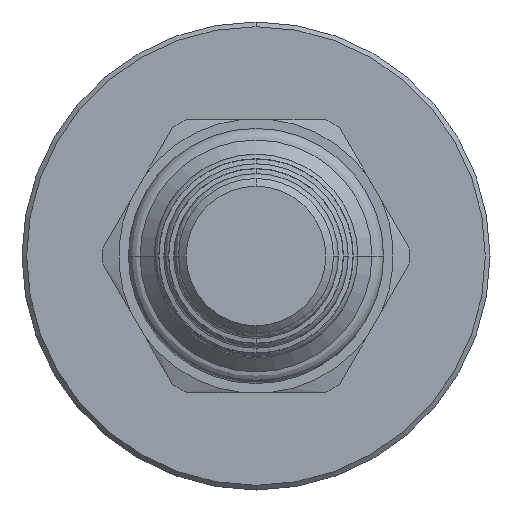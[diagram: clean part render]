
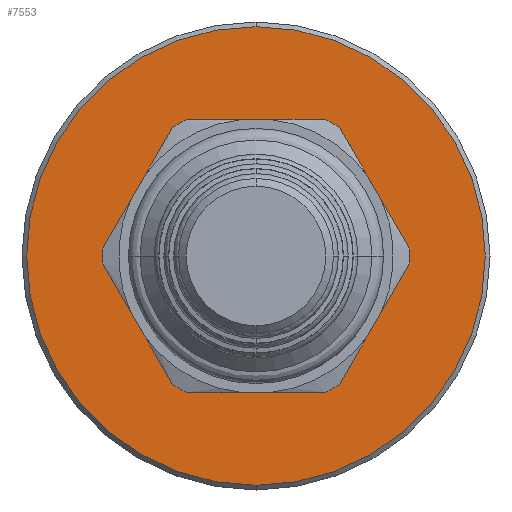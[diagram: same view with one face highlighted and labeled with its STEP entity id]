
A CAD part, front view. The second image highlights one B-rep face of the part: STEP entity #7553.
In plain terms, the highlighted planar face has unit normal (0, -1, 0).
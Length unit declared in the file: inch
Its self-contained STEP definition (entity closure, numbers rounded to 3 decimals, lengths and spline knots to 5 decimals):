
#7325=CARTESIAN_POINT('',(0.,4.673,0.));
#7326=DIRECTION('',(0.,-1.,0.));
#7327=DIRECTION('',(0.,0.,-1.));
#7328=AXIS2_PLACEMENT_3D('',#7325,#7326,#7327);
#7330=CARTESIAN_POINT('',(0.,4.673,0.));
#7331=DIRECTION('',(0.,-1.,0.));
#7332=DIRECTION('',(0.,0.,1.));
#7333=AXIS2_PLACEMENT_3D('',#7330,#7331,#7332);
#7335=CARTESIAN_POINT('',(0.,4.673,0.));
#7336=DIRECTION('',(0.,-1.,0.));
#7337=DIRECTION('',(0.,0.,-1.));
#7338=AXIS2_PLACEMENT_3D('',#7335,#7336,#7337);
#7353=CARTESIAN_POINT('',(0.,4.673,0.));
#7354=DIRECTION('',(0.,-1.,0.));
#7355=DIRECTION('',(0.,0.,1.));
#7356=AXIS2_PLACEMENT_3D('',#7353,#7354,#7355);
#7453=CARTESIAN_POINT('',(0.,4.673,-0.375));
#7454=CARTESIAN_POINT('',(0.,4.673,0.375));
#7455=VERTEX_POINT('',#7453);
#7456=VERTEX_POINT('',#7454);
#7457=CARTESIAN_POINT('',(0.,4.673,0.735));
#7458=CARTESIAN_POINT('',(0.,4.673,-0.735));
#7459=VERTEX_POINT('',#7457);
#7460=VERTEX_POINT('',#7458);
#7537=CARTESIAN_POINT('',(0.,4.673,0.));
#7538=DIRECTION('',(0.,-1.,0.));
#7539=DIRECTION('',(0.,0.,-1.));
#7540=AXIS2_PLACEMENT_3D('',#7537,#7538,#7539);
#7541=PLANE('',#7540);
#7543=ORIENTED_EDGE('',*,*,#7542,.F.);
#7545=ORIENTED_EDGE('',*,*,#7544,.F.);
#7546=EDGE_LOOP('',(#7543,#7545));
#7547=FACE_OUTER_BOUND('',#7546,.F.);
#7548=ORIENTED_EDGE('',*,*,#7527,.T.);
#7550=ORIENTED_EDGE('',*,*,#7549,.T.);
#7551=EDGE_LOOP('',(#7548,#7550));
#7552=FACE_BOUND('',#7551,.F.);
#7553=ADVANCED_FACE('',(#7547,#7552),#7541,.T.);
#7329=CIRCLE('',#7328,0.375);
#7334=CIRCLE('',#7333,0.375);
#7339=CIRCLE('',#7338,0.735);
#7357=CIRCLE('',#7356,0.735);
#7527=EDGE_CURVE('',#7455,#7456,#7329,.T.);
#7542=EDGE_CURVE('',#7460,#7459,#7339,.T.);
#7544=EDGE_CURVE('',#7459,#7460,#7357,.T.);
#7549=EDGE_CURVE('',#7456,#7455,#7334,.T.);
